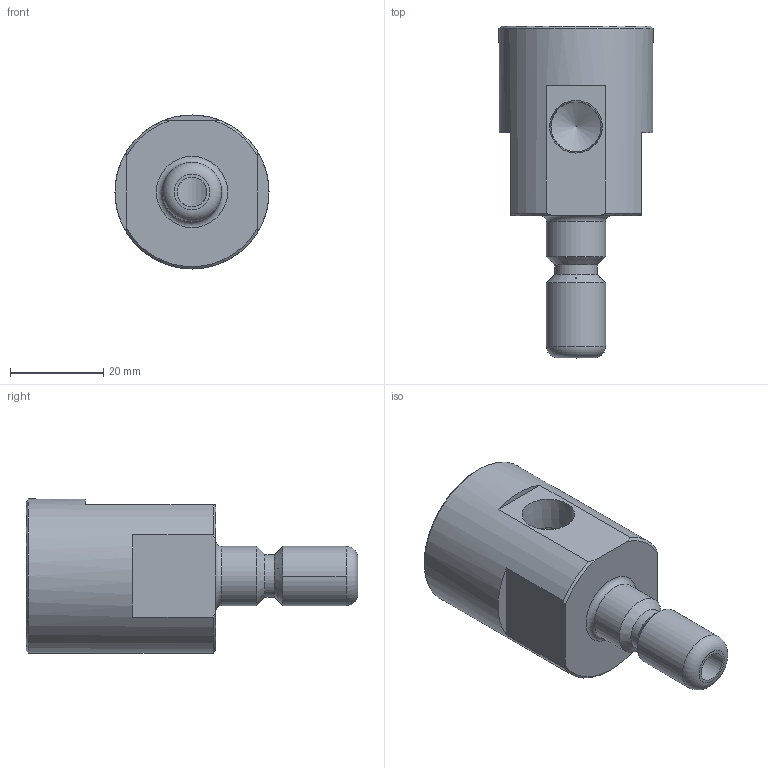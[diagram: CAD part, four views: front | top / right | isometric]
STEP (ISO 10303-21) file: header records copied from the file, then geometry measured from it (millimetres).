
FILE_DESCRIPTION(/* description */ (''),/* implementation_level */ '2;1');
FILE_NAME(/* name */ 'Inlet Probe.step',/* time_stamp */ '2026-05-22T17:07:12-04:00',/* author */ (''),/* organization */ (''),/* preprocessor_version */ 'ST-DEVELOPER v20.1',/* originating_system */ 'Autodesk Translation Framework v15.8.0.0',/* authorisation */ '');
FILE_SCHEMA (('AUTOMOTIVE_DESIGN { 1 0 10303 214 3 1 1 }'));
Length unit declared in the file: inch
Products named in the file (1): Inlet Probe
Bounding box: 33.02 x 71.12 x 33.02 mm (x, y, z)
Volume: 33176.5 mm3; surface area: 8738.7 mm2
Topology: 1 solids, 1 shells, 34 faces, 75 edges, 50 vertices
Faces by surface type: cone 14, plane 10, cylinder 8, torus 2
Full cylindrical faces by diameter (mm): 6.35 x1, 7.976 x1, 9.144 x1, 10.719 x1, 12.7 x1, 33.02 x1
Entity records: 1181 total; most frequent: CARTESIAN_POINT 389, DIRECTION 164, ORIENTED_EDGE 146, EDGE_CURVE 73, AXIS2_PLACEMENT_3D 69, VERTEX_POINT 50, EDGE_LOOP 45, FACE_OUTER_BOUND 34
